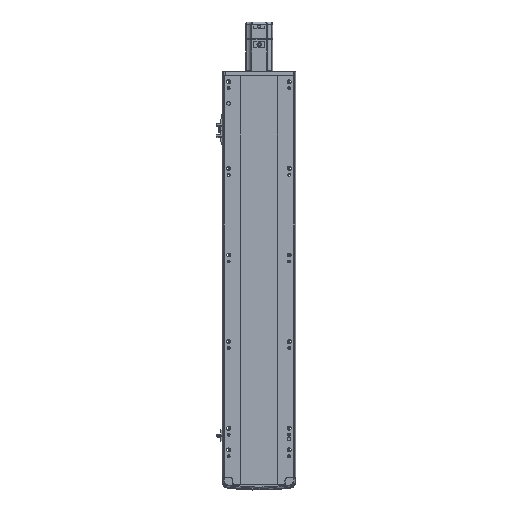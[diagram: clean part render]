
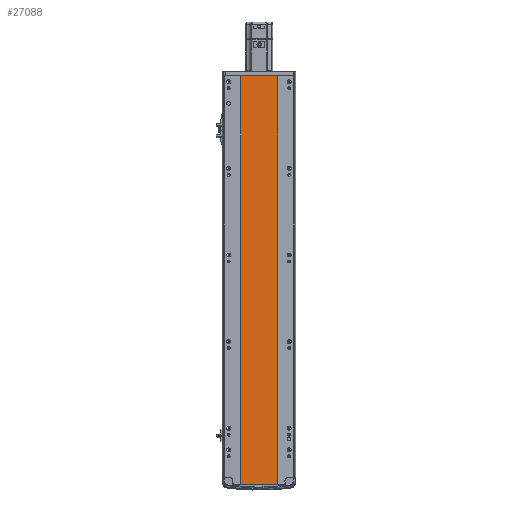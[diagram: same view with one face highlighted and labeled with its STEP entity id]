
A CAD part, front view. The second image highlights one B-rep face of the part: STEP entity #27088.
In plain terms, the highlighted planar face has unit normal (0, -1, 0).
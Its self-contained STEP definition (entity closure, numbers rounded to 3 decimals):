
#1711 = FACE_OUTER_BOUND ( 'NONE', #5685, .T. ) ;
#2249 = LINE ( 'NONE', #2671, #23318 ) ;
#2323 = AXIS2_PLACEMENT_3D ( 'NONE', #19766, #12723, #19938 ) ;
#2671 = CARTESIAN_POINT ( 'NONE',  ( -41.791, 1., 943.5 ) ) ;
#5685 = EDGE_LOOP ( 'NONE', ( #10564, #26030, #20972, #30437 ) ) ;
#6675 = EDGE_CURVE ( 'NONE', #48983, #16961, #43847, .T. ) ;
#8604 = LINE ( 'NONE', #42033, #48434 ) ;
#10028 = VERTEX_POINT ( 'NONE', #11177 ) ;
#10564 = ORIENTED_EDGE ( 'NONE', *, *, #37912, .T. ) ;
#11103 = CARTESIAN_POINT ( 'NONE',  ( 41.793, 0.998, 0. ) ) ;
#11177 = CARTESIAN_POINT ( 'NONE',  ( -41.791, 1., 943.5 ) ) ;
#12723 = DIRECTION ( 'NONE',  ( 0., 1., 0. ) ) ;
#16961 = VERTEX_POINT ( 'NONE', #11103 ) ;
#18560 = CARTESIAN_POINT ( 'NONE',  ( 41.793, 0.998, 943.5 ) ) ;
#19024 = DIRECTION ( 'NONE',  ( 1., 0., 0. ) ) ;
#19766 = CARTESIAN_POINT ( 'NONE',  ( 0., 0.999, 943.5 ) ) ;
#19938 = DIRECTION ( 'NONE',  ( -1., 0., 0. ) ) ;
#20972 = ORIENTED_EDGE ( 'NONE', *, *, #30457, .F. ) ;
#21616 = VERTEX_POINT ( 'NONE', #23592 ) ;
#22134 = DIRECTION ( 'NONE',  ( 1., 0., 0. ) ) ;
#23318 = VECTOR ( 'NONE', #41123, 1000. ) ;
#23592 = CARTESIAN_POINT ( 'NONE',  ( -41.791, 1., 0. ) ) ;
#24530 = VECTOR ( 'NONE', #39332, 1000. ) ;
#26030 = ORIENTED_EDGE ( 'NONE', *, *, #6675, .F. ) ;
#27088 = ADVANCED_FACE ( 'NONE', ( #1711 ), #35459, .F. ) ;
#27760 = EDGE_CURVE ( 'NONE', #10028, #21616, #2249, .T. ) ;
#28563 = VECTOR ( 'NONE', #19024, 1000. ) ;
#30437 = ORIENTED_EDGE ( 'NONE', *, *, #27760, .T. ) ;
#30457 = EDGE_CURVE ( 'NONE', #10028, #48983, #36412, .T. ) ;
#31179 = CARTESIAN_POINT ( 'NONE',  ( 0., 0.999, 943.5 ) ) ;
#35459 = PLANE ( 'NONE',  #2323 ) ;
#36412 = LINE ( 'NONE', #31179, #28563 ) ;
#37912 = EDGE_CURVE ( 'NONE', #21616, #16961, #8604, .T. ) ;
#39332 = DIRECTION ( 'NONE',  ( 0., 0., -1. ) ) ;
#41123 = DIRECTION ( 'NONE',  ( 0., 0., -1. ) ) ;
#42033 = CARTESIAN_POINT ( 'NONE',  ( 0., 0.999, 0. ) ) ;
#43847 = LINE ( 'NONE', #47267, #24530 ) ;
#47267 = CARTESIAN_POINT ( 'NONE',  ( 41.793, 0.998, 943.5 ) ) ;
#48434 = VECTOR ( 'NONE', #22134, 1000. ) ;
#48983 = VERTEX_POINT ( 'NONE', #18560 ) ;
